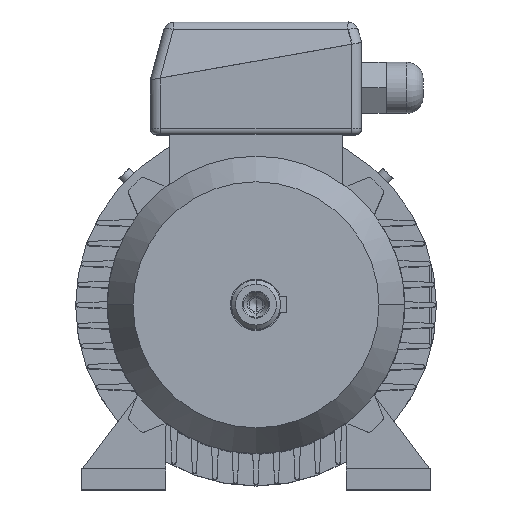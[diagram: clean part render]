
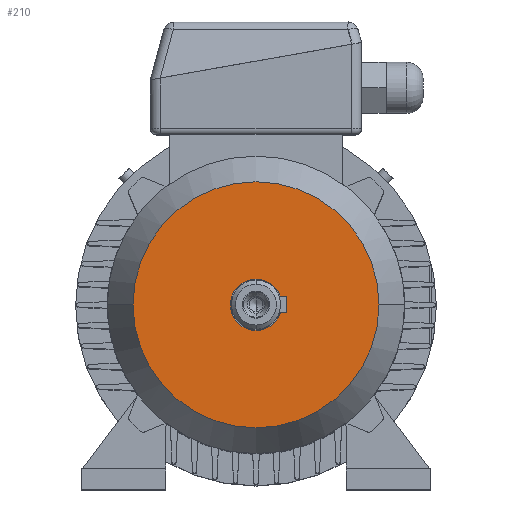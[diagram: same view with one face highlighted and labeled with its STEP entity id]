
A CAD part, top view. The second image highlights one B-rep face of the part: STEP entity #210.
In plain terms, the highlighted planar face has unit normal (0, 0, 1).
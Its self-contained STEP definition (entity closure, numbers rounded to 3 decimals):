
#210 = ADVANCED_FACE ( 'NONE', ( #2328 ), #2329, .T. ) ;
#1373 = VERTEX_POINT ( 'NONE', #4741 ) ;
#1420 = VERTEX_POINT ( 'NONE', #4832 ) ;
#1470 = EDGE_CURVE ( 'NONE', #1420, #1373, #4908, .T. ) ;
#2328 = FACE_OUTER_BOUND ( 'NONE', #4629, .T. ) ;
#2329 = PLANE ( 'NONE',  #2330 ) ;
#2330 = AXIS2_PLACEMENT_3D ( 'NONE', #2331, #2332, #2333 ) ;
#2331 = CARTESIAN_POINT ( 'NONE',  ( 0., 60., 33. ) ) ;
#2332 = DIRECTION ( 'NONE',  ( 0., 0., 1. ) ) ;
#2333 = DIRECTION ( 'NONE',  ( 1., 0., 0. ) ) ;
#4237 = ORIENTED_EDGE ( 'NONE', *, *, #1470, .F. ) ;
#4629 = EDGE_LOOP ( 'NONE', ( #4237, #8450 ) ) ;
#4741 = CARTESIAN_POINT ( 'NONE',  ( 60., 0., 33. ) ) ;
#4832 = CARTESIAN_POINT ( 'NONE',  ( -60., 0., 33. ) ) ;
#4908 = CIRCLE ( 'NONE', #4909, 60. ) ;
#4909 = AXIS2_PLACEMENT_3D ( 'NONE', #4910, #4911, #4912 ) ;
#4910 = CARTESIAN_POINT ( 'NONE',  ( 0., 0., 33. ) ) ;
#4911 = DIRECTION ( 'NONE',  ( 0., 0., -1. ) ) ;
#4912 = DIRECTION ( 'NONE',  ( -1., 0., 0. ) ) ;
#8450 = ORIENTED_EDGE ( 'NONE', *, *, #10210, .F. ) ;
#10210 = EDGE_CURVE ( 'NONE', #1373, #1420, #10627, .T. ) ;
#10627 = CIRCLE ( 'NONE', #10628, 60. ) ;
#10628 = AXIS2_PLACEMENT_3D ( 'NONE', #10629, #10630, #10631 ) ;
#10629 = CARTESIAN_POINT ( 'NONE',  ( 0., 0., 33. ) ) ;
#10630 = DIRECTION ( 'NONE',  ( 0., 0., -1. ) ) ;
#10631 = DIRECTION ( 'NONE',  ( -1., 0., 0. ) ) ;
